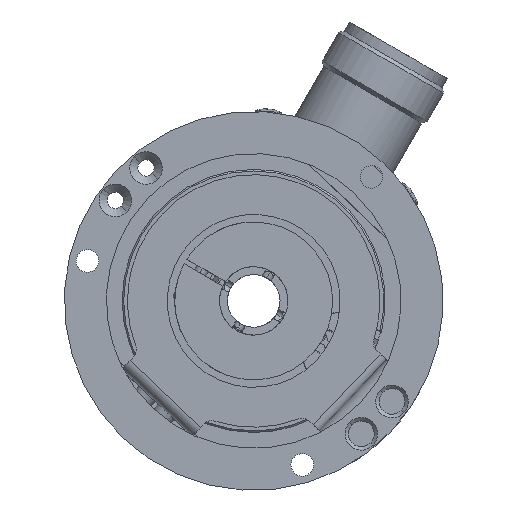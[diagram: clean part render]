
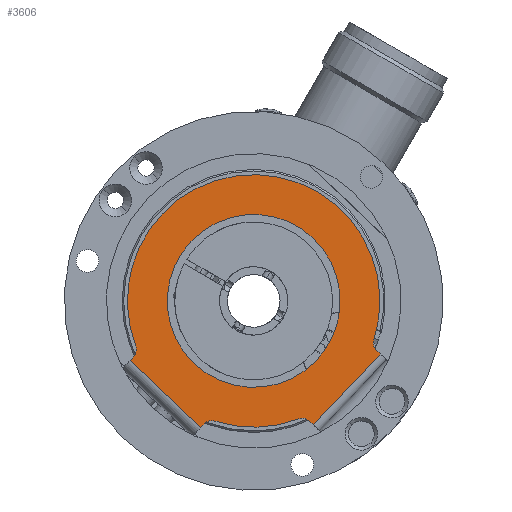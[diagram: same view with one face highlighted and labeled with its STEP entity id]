
A CAD part, left-side view. The second image highlights one B-rep face of the part: STEP entity #3606.
In plain terms, the highlighted planar face has unit normal (-1, 0, 0).
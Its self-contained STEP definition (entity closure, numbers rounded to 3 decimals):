
#3 = VERTEX_POINT ( 'NONE', #8488 ) ;
#10 = EDGE_CURVE ( 'NONE', #15, #3, #8480, .T. ) ;
#15 = VERTEX_POINT ( 'NONE', #8475 ) ;
#1544 = EDGE_CURVE ( 'NONE', #3849, #10283, #9653, .T. ) ;
#1560 = ORIENTED_EDGE ( 'NONE', *, *, #1544, .T. ) ;
#1900 = CARTESIAN_POINT ( 'NONE',  ( -2.2, -11.332, -23.506 ) ) ;
#2494 = ORIENTED_EDGE ( 'NONE', *, *, #3832, .T. ) ;
#2498 = ORIENTED_EDGE ( 'NONE', *, *, #3835, .T. ) ;
#3291 = ORIENTED_EDGE ( 'NONE', *, *, #6454, .F. ) ;
#3587 = ORIENTED_EDGE ( 'NONE', *, *, #3718, .F. ) ;
#3600 = ORIENTED_EDGE ( 'NONE', *, *, #3861, .T. ) ;
#3601 = ORIENTED_EDGE ( 'NONE', *, *, #3769, .T. ) ;
#3602 = ORIENTED_EDGE ( 'NONE', *, *, #3857, .T. ) ;
#3604 = ORIENTED_EDGE ( 'NONE', *, *, #3803, .T. ) ;
#3605 = EDGE_LOOP ( 'NONE', ( #3291, #3587 ) ) ;
#3606 = ADVANCED_FACE ( 'NONE', ( #9745, #9744 ), #9783, .T. ) ;
#3607 = ORIENTED_EDGE ( 'NONE', *, *, #3716, .T. ) ;
#3608 = ORIENTED_EDGE ( 'NONE', *, *, #5411, .T. ) ;
#3609 = ORIENTED_EDGE ( 'NONE', *, *, #10, .T. ) ;
#3610 = EDGE_LOOP ( 'NONE', ( #8270, #8271, #3601, #10128, #3604, #3602, #3600, #2498, #2494, #1560, #3607, #3608, #3609 ) ) ;
#3613 = EDGE_CURVE ( 'NONE', #3, #6457, #9777, .T. ) ;
#3706 = VERTEX_POINT ( 'NONE', #10830 ) ;
#3716 = EDGE_CURVE ( 'NONE', #10283, #3706, #10817, .T. ) ;
#3718 = EDGE_CURVE ( 'NONE', #6456, #6455, #10813, .T. ) ;
#3744 = EDGE_CURVE ( 'NONE', #3760, #3806, #10912, .T. ) ;
#3760 = VERTEX_POINT ( 'NONE', #10973 ) ;
#3769 = EDGE_CURVE ( 'NONE', #6458, #3760, #11007, .T. ) ;
#3799 = VERTEX_POINT ( 'NONE', #11045 ) ;
#3803 = EDGE_CURVE ( 'NONE', #3806, #3868, #11040, .T. ) ;
#3806 = VERTEX_POINT ( 'NONE', #11071 ) ;
#3832 = EDGE_CURVE ( 'NONE', #3847, #3849, #11135, .T. ) ;
#3835 = EDGE_CURVE ( 'NONE', #3862, #3847, #11129, .T. ) ;
#3847 = VERTEX_POINT ( 'NONE', #11207 ) ;
#3849 = VERTEX_POINT ( 'NONE', #11206 ) ;
#3857 = EDGE_CURVE ( 'NONE', #3868, #3799, #11232, .T. ) ;
#3861 = EDGE_CURVE ( 'NONE', #3799, #3862, #11265, .T. ) ;
#3862 = VERTEX_POINT ( 'NONE', #11256 ) ;
#3868 = VERTEX_POINT ( 'NONE', #11250 ) ;
#5411 = EDGE_CURVE ( 'NONE', #3706, #15, #16108, .T. ) ;
#6454 = EDGE_CURVE ( 'NONE', #6455, #6456, #19230, .T. ) ;
#6455 = VERTEX_POINT ( 'NONE', #19221 ) ;
#6456 = VERTEX_POINT ( 'NONE', #19220 ) ;
#6457 = VERTEX_POINT ( 'NONE', #19219 ) ;
#6458 = VERTEX_POINT ( 'NONE', #19218 ) ;
#6505 = EDGE_CURVE ( 'NONE', #6457, #6458, #19315, .T. ) ;
#8270 = ORIENTED_EDGE ( 'NONE', *, *, #3613, .T. ) ;
#8271 = ORIENTED_EDGE ( 'NONE', *, *, #6505, .T. ) ;
#8475 = CARTESIAN_POINT ( 'NONE',  ( -2.2, -23.37, -9.425 ) ) ;
#8477 = DIRECTION ( 'NONE',  ( 0., -0.725, -0.688 ) ) ;
#8478 = DIRECTION ( 'NONE',  ( 1., 0., 0. ) ) ;
#8479 = AXIS2_PLACEMENT_3D ( 'NONE', #8486, #8478, #8477 ) ;
#8480 = CIRCLE ( 'NONE', #8479, 2. ) ;
#8486 = CARTESIAN_POINT ( 'NONE',  ( -2.2, -24.747, -7.975 ) ) ;
#8488 = CARTESIAN_POINT ( 'NONE',  ( -2.2, -22.843, -7.361 ) ) ;
#9650 = DIRECTION ( 'NONE',  ( 0., -0.725, -0.688 ) ) ;
#9651 = VECTOR ( 'NONE', #9650, 1000. ) ;
#9652 = CARTESIAN_POINT ( 'NONE',  ( -2.2, -9.697, -21.954 ) ) ;
#9653 = LINE ( 'NONE', #9652, #9651 ) ;
#9744 = FACE_BOUND ( 'NONE', #3605, .T. ) ;
#9745 = FACE_OUTER_BOUND ( 'NONE', #3610, .T. ) ;
#9774 = DIRECTION ( 'NONE',  ( 0., -0.725, -0.688 ) ) ;
#9775 = DIRECTION ( 'NONE',  ( -1., 0., 0. ) ) ;
#9776 = AXIS2_PLACEMENT_3D ( 'NONE', #9782, #9775, #9774 ) ;
#9777 = CIRCLE ( 'NONE', #9776, 24. ) ;
#9778 = DIRECTION ( 'NONE',  ( 0., -0.725, -0.688 ) ) ;
#9779 = DIRECTION ( 'NONE',  ( -1., 0., 0. ) ) ;
#9780 = CARTESIAN_POINT ( 'NONE',  ( -2.2, 0., 0. ) ) ;
#9781 = AXIS2_PLACEMENT_3D ( 'NONE', #9780, #9779, #9778 ) ;
#9782 = CARTESIAN_POINT ( 'NONE',  ( -2.2, 0., 0. ) ) ;
#9783 = PLANE ( 'NONE',  #9781 ) ;
#10128 = ORIENTED_EDGE ( 'NONE', *, *, #3744, .T. ) ;
#10283 = VERTEX_POINT ( 'NONE', #1900 ) ;
#10809 = DIRECTION ( 'NONE',  ( 0., -0.725, -0.688 ) ) ;
#10810 = DIRECTION ( 'NONE',  ( -1., 0., 0. ) ) ;
#10811 = CARTESIAN_POINT ( 'NONE',  ( -2.2, 0., 0. ) ) ;
#10812 = AXIS2_PLACEMENT_3D ( 'NONE', #10811, #10810, #10809 ) ;
#10813 = CIRCLE ( 'NONE', #10812, 16.425 ) ;
#10814 = DIRECTION ( 'NONE',  ( 0., -0.688, 0.725 ) ) ;
#10815 = VECTOR ( 'NONE', #10814, 1000. ) ;
#10816 = CARTESIAN_POINT ( 'NONE',  ( -2.2, -24.066, -10.086 ) ) ;
#10817 = LINE ( 'NONE', #10816, #10815 ) ;
#10830 = CARTESIAN_POINT ( 'NONE',  ( -2.2, -24.066, -10.086 ) ) ;
#10909 = DIRECTION ( 'NONE',  ( 0., 0.688, -0.725 ) ) ;
#10910 = VECTOR ( 'NONE', #10909, 1000. ) ;
#10911 = CARTESIAN_POINT ( 'NONE',  ( -2.2, 21.954, -9.697 ) ) ;
#10912 = LINE ( 'NONE', #10911, #10910 ) ;
#10973 = CARTESIAN_POINT ( 'NONE',  ( -2.2, 22.845, -10.636 ) ) ;
#11003 = DIRECTION ( 'NONE',  ( 0., -0.725, -0.688 ) ) ;
#11004 = DIRECTION ( 'NONE',  ( 1., 0., 0. ) ) ;
#11005 = CARTESIAN_POINT ( 'NONE',  ( -2.2, 24.296, -9.259 ) ) ;
#11006 = AXIS2_PLACEMENT_3D ( 'NONE', #11005, #11004, #11003 ) ;
#11007 = CIRCLE ( 'NONE', #11006, 2. ) ;
#11040 = LINE ( 'NONE', #11094, #11093 ) ;
#11045 = CARTESIAN_POINT ( 'NONE',  ( -2.2, 9.425, -23.37 ) ) ;
#11071 = CARTESIAN_POINT ( 'NONE',  ( -2.2, 23.506, -11.332 ) ) ;
#11092 = DIRECTION ( 'NONE',  ( 0., -0.725, -0.688 ) ) ;
#11093 = VECTOR ( 'NONE', #11092, 1000. ) ;
#11094 = CARTESIAN_POINT ( 'NONE',  ( -2.2, 16.796, -17.699 ) ) ;
#11125 = DIRECTION ( 'NONE',  ( 0., -0.725, -0.688 ) ) ;
#11126 = DIRECTION ( 'NONE',  ( -1., 0., 0. ) ) ;
#11127 = CARTESIAN_POINT ( 'NONE',  ( -2.2, 0., 0. ) ) ;
#11128 = AXIS2_PLACEMENT_3D ( 'NONE', #11127, #11126, #11125 ) ;
#11129 = CIRCLE ( 'NONE', #11128, 24. ) ;
#11131 = DIRECTION ( 'NONE',  ( 0., -0.725, -0.688 ) ) ;
#11132 = DIRECTION ( 'NONE',  ( 1., 0., 0. ) ) ;
#11133 = CARTESIAN_POINT ( 'NONE',  ( -2.2, -9.259, -24.296 ) ) ;
#11134 = AXIS2_PLACEMENT_3D ( 'NONE', #11133, #11132, #11131 ) ;
#11135 = CIRCLE ( 'NONE', #11134, 2. ) ;
#11206 = CARTESIAN_POINT ( 'NONE',  ( -2.2, -10.636, -22.845 ) ) ;
#11207 = CARTESIAN_POINT ( 'NONE',  ( -2.2, -8.547, -22.427 ) ) ;
#11229 = DIRECTION ( 'NONE',  ( 0., -0.688, 0.725 ) ) ;
#11230 = VECTOR ( 'NONE', #11229, 1000. ) ;
#11231 = CARTESIAN_POINT ( 'NONE',  ( -2.2, 8.534, -22.431 ) ) ;
#11232 = LINE ( 'NONE', #11231, #11230 ) ;
#11250 = CARTESIAN_POINT ( 'NONE',  ( -2.2, 10.086, -24.066 ) ) ;
#11256 = CARTESIAN_POINT ( 'NONE',  ( -2.2, 7.361, -22.843 ) ) ;
#11257 = DIRECTION ( 'NONE',  ( 0., -0.725, -0.688 ) ) ;
#11258 = DIRECTION ( 'NONE',  ( 1., 0., 0. ) ) ;
#11259 = CARTESIAN_POINT ( 'NONE',  ( -2.2, 7.975, -24.747 ) ) ;
#11260 = AXIS2_PLACEMENT_3D ( 'NONE', #11259, #11258, #11257 ) ;
#11265 = CIRCLE ( 'NONE', #11260, 2. ) ;
#16105 = DIRECTION ( 'NONE',  ( 0., 0.725, 0.688 ) ) ;
#16106 = VECTOR ( 'NONE', #16105, 1000. ) ;
#16107 = CARTESIAN_POINT ( 'NONE',  ( -2.2, -22.431, -8.534 ) ) ;
#16108 = LINE ( 'NONE', #16107, #16106 ) ;
#19218 = CARTESIAN_POINT ( 'NONE',  ( -2.2, 22.427, -8.547 ) ) ;
#19219 = CARTESIAN_POINT ( 'NONE',  ( -2.2, 17.409, 16.521 ) ) ;
#19220 = CARTESIAN_POINT ( 'NONE',  ( -2.2, -11.914, -11.306 ) ) ;
#19221 = CARTESIAN_POINT ( 'NONE',  ( -2.2, 11.914, 11.306 ) ) ;
#19222 = DIRECTION ( 'NONE',  ( 0., -0.725, -0.688 ) ) ;
#19223 = DIRECTION ( 'NONE',  ( -1., 0., 0. ) ) ;
#19224 = CARTESIAN_POINT ( 'NONE',  ( -2.2, 0., 0. ) ) ;
#19225 = AXIS2_PLACEMENT_3D ( 'NONE', #19224, #19223, #19222 ) ;
#19230 = CIRCLE ( 'NONE', #19225, 16.425 ) ;
#19311 = DIRECTION ( 'NONE',  ( 0., -0.725, -0.688 ) ) ;
#19312 = DIRECTION ( 'NONE',  ( -1., 0., 0. ) ) ;
#19313 = CARTESIAN_POINT ( 'NONE',  ( -2.2, 0., 0. ) ) ;
#19314 = AXIS2_PLACEMENT_3D ( 'NONE', #19313, #19312, #19311 ) ;
#19315 = CIRCLE ( 'NONE', #19314, 24. ) ;
